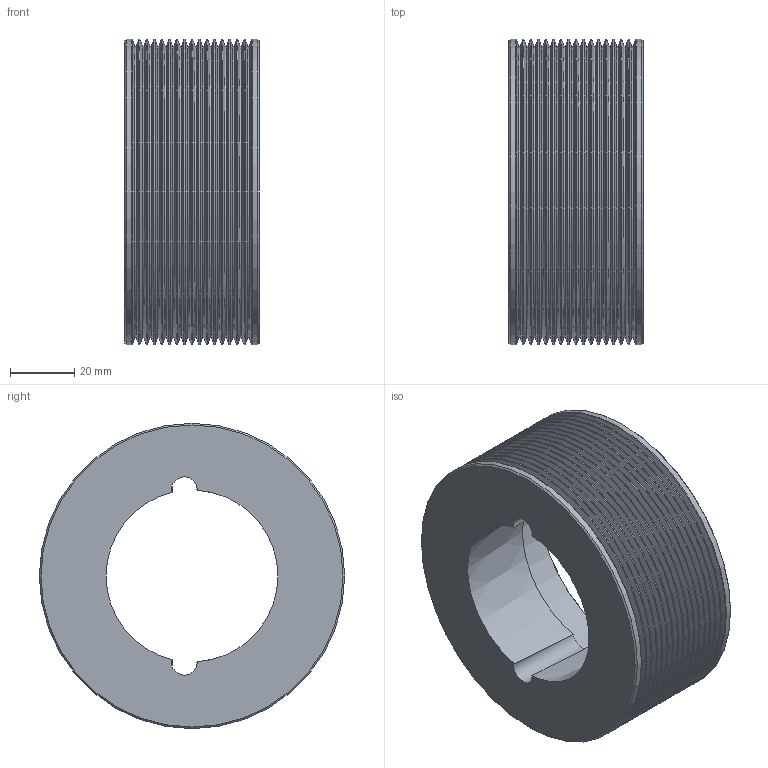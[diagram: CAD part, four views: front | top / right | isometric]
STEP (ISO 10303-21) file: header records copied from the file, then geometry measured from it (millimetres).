
FILE_DESCRIPTION(/* description */ (''),/* implementation_level */ '2;1');
FILE_NAME(/* name */ 'C:\Users\stagistacad\Desktop\48116095.stp',/* time_stamp */ '2018-06-14T10:34:57+02:00',/* author */ ('stagistacad'),/* organization */ (''),/* preprocessor_version */ 'ST-DEVELOPER v15.6',/* originating_system */ 'Autodesk Inventor 2015',/* authorisation */ '');
FILE_SCHEMA (('AUTOMOTIVE_DESIGN { 1 0 10303 214 3 1 1 }'));
Length unit declared in the file: millimetre
Products named in the file (1): 48116095
Bounding box: 42 x 95 x 95 mm (x, y, z)
Volume: 151890.8 mm3; surface area: 43387.3 mm2
Topology: 1 solids, 1 shells, 81 faces, 164 edges, 86 vertices
Faces by surface type: cone 38, torus 34, cylinder 6, plane 3
Full cylindrical faces by diameter (mm): 74 x1, 95 x2
Entity records: 1768 total; most frequent: DIRECTION 334, CARTESIAN_POINT 311, ORIENTED_EDGE 184, AXIS2_PLACEMENT_3D 167, EDGE_LOOP 156, EDGE_CURVE 92, VERTEX_POINT 86, CIRCLE 85
